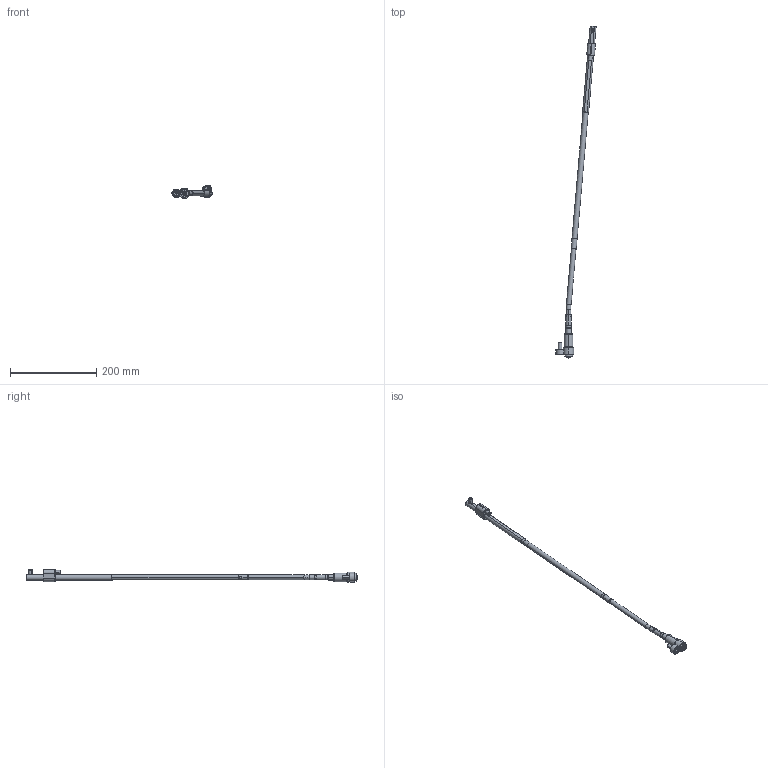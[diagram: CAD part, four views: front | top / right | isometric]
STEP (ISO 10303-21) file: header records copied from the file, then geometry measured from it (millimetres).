
FILE_DESCRIPTION (( 'STEP AP214' ), '1' );
FILE_NAME ('WL120125-EJE 5°.STEP', '2021-03-19T15:38:51', ( '' ), ( '' ), 'SwSTEP 2.0', 'SolidWorks 2019', '' );
FILE_SCHEMA (( 'AUTOMOTIVE_DESIGN' ));
Length unit declared in the file: millimetre
Products named in the file (17): 1DIN912820_DIN 912 M8 x 20 --- 20C; 1DIN912645_DIN 912 M6 x 45 --- 45C; WL120100-B; 8WL12EJEP; Web-WL12-A1; WL120100-D; Web-WL12-XX_ON-WL120125-5; Web-WL12-F01; Web-WL12-A3; Web-WL12-A2; 3IMAN5X3-150_con sellador; WL120125-EJE 5°; 9DR2808-TOR; Web-WL12-A8; WL120100-E; WL120100-B1; Web-WL12-F00.SLDPRT
Assembly tree (16 placements, depth 3):
  WL120125-EJE 5°
    Web-WL12-A8
    Web-WL12-XX_ON-WL120125-5
    Web-WL12-A3
    Web-WL12-A2
    Web-WL12-A1
    Web-WL12-F00.SLDPRT
      Web-WL12-F01
      1DIN912820_DIN 912 M8 x 20 --- 20C
      1DIN912645_DIN 912 M6 x 45 --- 45C
    WL120100-D
    8WL12EJEP
    WL120100-E
    9DR2808-TOR
    WL120100-B
      WL120100-B1
      3IMAN5X3-150_con sellador
Bounding box: 93.36 x 771.1 x 29.9 mm (x, y, z)
Volume: 116548.2 mm3; surface area: 51029.9 mm2
Topology: 15 solids, 15 shells, 432 faces, 906 edges, 525 vertices
Faces by surface type: plane 139, cylinder 123, cone 120, torus 50
Entity records: 13661 total; most frequent: DIRECTION 2240, CARTESIAN_POINT 2104, ORIENTED_EDGE 1788, AXIS2_PLACEMENT_3D 929, EDGE_CURVE 894, VERTEX_POINT 525, EDGE_LOOP 477, CIRCLE 476
